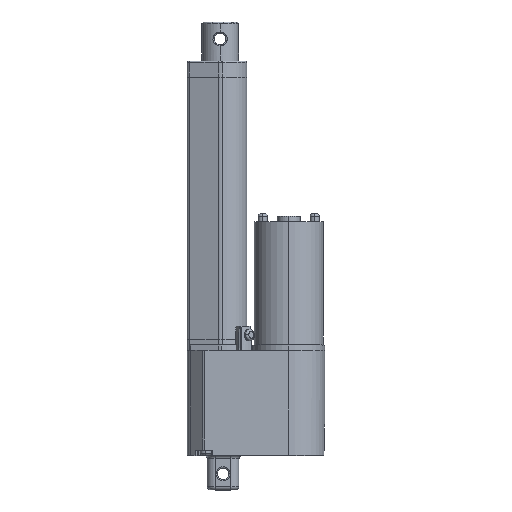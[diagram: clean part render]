
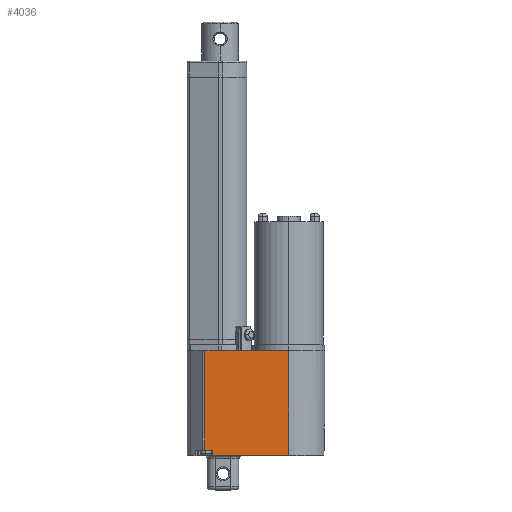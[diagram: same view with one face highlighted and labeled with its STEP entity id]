
A CAD part, top view. The second image highlights one B-rep face of the part: STEP entity #4036.
In plain terms, the highlighted planar face has unit normal (0, 0, 1).
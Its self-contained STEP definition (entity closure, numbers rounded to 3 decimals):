
#15 = CARTESIAN_POINT ( 'NONE',  ( 9.679, 57.912, 0. ) ) ;
#22 = LINE ( 'NONE', #6900, #7246 ) ;
#138 = LINE ( 'NONE', #5403, #5568 ) ;
#239 = CARTESIAN_POINT ( 'NONE',  ( 8.89, 57.912, 0. ) ) ;
#411 = LINE ( 'NONE', #3914, #4023 ) ;
#422 = CARTESIAN_POINT ( 'NONE',  ( 8.89, 2.946, 0. ) ) ;
#447 = EDGE_CURVE ( 'NONE', #1485, #936, #5957, .T. ) ;
#577 = VERTEX_POINT ( 'NONE', #4678 ) ;
#876 = EDGE_CURVE ( 'NONE', #4711, #577, #5268, .T. ) ;
#936 = VERTEX_POINT ( 'NONE', #1051 ) ;
#1051 = CARTESIAN_POINT ( 'NONE',  ( 55.88, 0., 0. ) ) ;
#1485 = VERTEX_POINT ( 'NONE', #3759 ) ;
#1767 = EDGE_CURVE ( 'NONE', #4711, #7287, #138, .T. ) ;
#2159 = ORIENTED_EDGE ( 'NONE', *, *, #876, .T. ) ;
#2409 = VECTOR ( 'NONE', #5174, 1000. ) ;
#2600 = EDGE_CURVE ( 'NONE', #2804, #1485, #22, .T. ) ;
#2804 = VERTEX_POINT ( 'NONE', #6639 ) ;
#2822 = CARTESIAN_POINT ( 'NONE',  ( 55.88, 57.912, 0. ) ) ;
#2827 = DIRECTION ( 'NONE',  ( 0., -1., 0. ) ) ;
#3440 = VECTOR ( 'NONE', #5906, 1000. ) ;
#3759 = CARTESIAN_POINT ( 'NONE',  ( 13.907, 0., 0. ) ) ;
#3914 = CARTESIAN_POINT ( 'NONE',  ( 55.88, 57.912, 0. ) ) ;
#4023 = VECTOR ( 'NONE', #7992, 1000. ) ;
#4026 = DIRECTION ( 'NONE',  ( 1., 0., 0. ) ) ;
#4036 = ADVANCED_FACE ( 'NONE', ( #6560 ), #7042, .F. ) ;
#4155 = VECTOR ( 'NONE', #7938, 1000. ) ;
#4342 = DIRECTION ( 'NONE',  ( 0., -1., 0. ) ) ;
#4678 = CARTESIAN_POINT ( 'NONE',  ( 9.679, 2.946, 0. ) ) ;
#4711 = VERTEX_POINT ( 'NONE', #5304 ) ;
#5037 = ORIENTED_EDGE ( 'NONE', *, *, #447, .T. ) ;
#5049 = AXIS2_PLACEMENT_3D ( 'NONE', #239, #8409, #4342 ) ;
#5133 = ORIENTED_EDGE ( 'NONE', *, *, #7538, .F. ) ;
#5174 = DIRECTION ( 'NONE',  ( -1., 0., 0. ) ) ;
#5218 = CARTESIAN_POINT ( 'NONE',  ( 8.89, 0., 0. ) ) ;
#5268 = LINE ( 'NONE', #15, #3440 ) ;
#5304 = CARTESIAN_POINT ( 'NONE',  ( 9.679, 57.912, 0. ) ) ;
#5403 = CARTESIAN_POINT ( 'NONE',  ( 8.89, 57.912, 0. ) ) ;
#5447 = ORIENTED_EDGE ( 'NONE', *, *, #7663, .F. ) ;
#5568 = VECTOR ( 'NONE', #4026, 1000. ) ;
#5906 = DIRECTION ( 'NONE',  ( 0., -1., 0. ) ) ;
#5957 = LINE ( 'NONE', #5218, #4155 ) ;
#6053 = LINE ( 'NONE', #422, #2409 ) ;
#6560 = FACE_OUTER_BOUND ( 'NONE', #8061, .T. ) ;
#6639 = CARTESIAN_POINT ( 'NONE',  ( 13.907, 2.946, 0. ) ) ;
#6900 = CARTESIAN_POINT ( 'NONE',  ( 13.907, 57.912, 0. ) ) ;
#7042 = PLANE ( 'NONE',  #5049 ) ;
#7053 = ORIENTED_EDGE ( 'NONE', *, *, #1767, .F. ) ;
#7246 = VECTOR ( 'NONE', #2827, 1000. ) ;
#7287 = VERTEX_POINT ( 'NONE', #2822 ) ;
#7454 = ORIENTED_EDGE ( 'NONE', *, *, #2600, .T. ) ;
#7538 = EDGE_CURVE ( 'NONE', #2804, #577, #6053, .T. ) ;
#7663 = EDGE_CURVE ( 'NONE', #7287, #936, #411, .T. ) ;
#7938 = DIRECTION ( 'NONE',  ( 1., 0., 0. ) ) ;
#7992 = DIRECTION ( 'NONE',  ( 0., -1., 0. ) ) ;
#8061 = EDGE_LOOP ( 'NONE', ( #7053, #2159, #5133, #7454, #5037, #5447 ) ) ;
#8409 = DIRECTION ( 'NONE',  ( 0., 0., -1. ) ) ;
